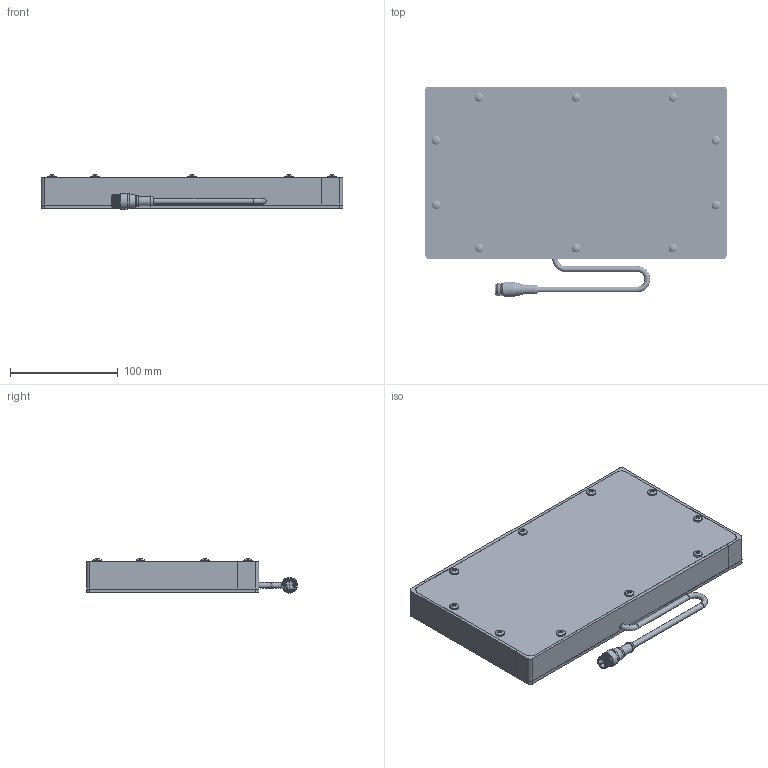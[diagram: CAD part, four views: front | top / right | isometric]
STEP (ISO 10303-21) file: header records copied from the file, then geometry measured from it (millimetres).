
FILE_DESCRIPTION (( 'STEP AP214' ), '1' );
FILE_NAME ('BL120240.STEP', '2026-06-17T01:58:54', ( '' ), ( '' ), 'SwSTEP 2.0', 'SolidWorks 2025', '' );
FILE_SCHEMA (( 'AUTOMOTIVE_DESIGN' ));
Length unit declared in the file: millimetre
Products named in the file (12): 120 to 480 x 25mm rails_240mm; SC Pigtail Complete 18_5pin; BL120240; Hex Standoff .75 x 8-32; MC Pigtail 24_90 then 180 short lead out; WD-Xmm x Xmm_120x240; 120 to 480 x 25mm rails_120mm no CG; Backplate Xmm x Xmm_120x240; 120 to 480 x 25mm rails_240mm no CG; 8-32 x .375 Nylon Screw_.375" 94611A192; M12 Connector 4,5 and 8 pin_RS4.5T; 8-32 x 0.5 FHCS (92210A194)_92210A194
Assembly tree (39 placements, depth 3):
  BL120240
    Backplate Xmm x Xmm_120x240
    120 to 480 x 25mm rails_240mm
    120 to 480 x 25mm rails_120mm no CG  x2
    120 to 480 x 25mm rails_240mm no CG
    WD-Xmm x Xmm_120x240
    SC Pigtail Complete 18_5pin
      MC Pigtail 24_90 then 180 short lead out
      M12 Connector 4,5 and 8 pin_RS4.5T
    Hex Standoff .75 x 8-32  x10
    8-32 x 0.5 FHCS (92210A194)_92210A194  x10
    8-32 x .375 Nylon Screw_.375" 94611A192  x10
Bounding box: 280 x 195.91 x 31.93 mm (x, y, z)
Volume: 640381.7 mm3; surface area: 287938.9 mm2
Topology: 38 solids, 38 shells, 1108 faces, 2721 edges, 1731 vertices
Faces by surface type: plane 424, bspline 260, cylinder 207, cone 179, torus 23, sphere 15
Full cylindrical faces by diameter (mm): 0.762 x5, 1 x1, 3.454 x10, 4.2 x4, 4.496 x30, 5.207 x3, 6.35 x8, 6.858 x10, 8.128 x10, 8.382 x1, 8.636 x1, 9.119 x10, 10.16 x1, 10.541 x1, 11.938 x1, 13.716 x2, 14.732 x1
Entity records: 14298 total; most frequent: CARTESIAN_POINT 5494, DIRECTION 1607, ORIENTED_EDGE 1356, EDGE_CURVE 678, AXIS2_PLACEMENT_3D 661, EDGE_LOOP 551, VERTEX_POINT 503, FACE_OUTER_BOUND 413
